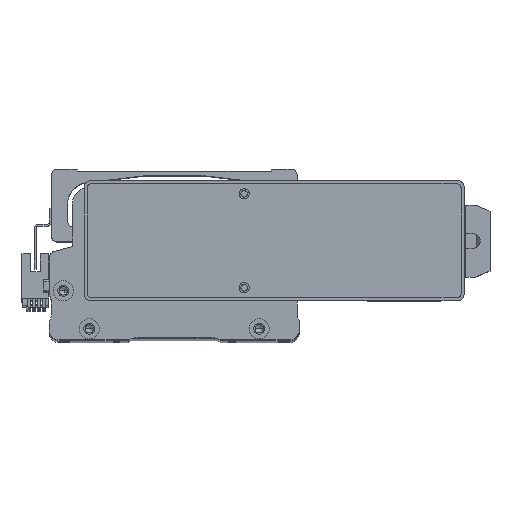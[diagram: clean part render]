
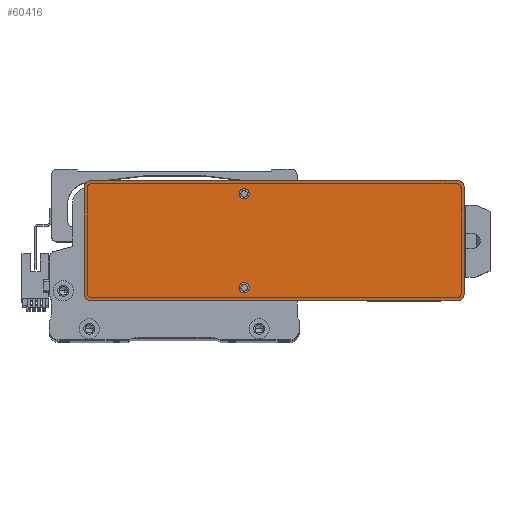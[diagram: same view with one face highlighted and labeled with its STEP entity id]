
A CAD part, top view. The second image highlights one B-rep face of the part: STEP entity #60416.
In plain terms, the highlighted planar face has unit normal (0, 0, 1) as drawn and (0, 0, -1) by its records, which use the part's own axes.
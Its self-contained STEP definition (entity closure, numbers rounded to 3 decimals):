
#3000 = CIRCLE ( 'NONE', #4780, 3. ) ;
#4780 = AXIS2_PLACEMENT_3D ( 'NONE', #63922, #27405, #70014 ) ;
#5582 = ORIENTED_EDGE ( 'NONE', *, *, #56372, .F. ) ;
#6471 = CARTESIAN_POINT ( 'NONE',  ( -15., 23.5, 0. ) ) ;
#6657 = CARTESIAN_POINT ( 'NONE',  ( -95., -30., 0. ) ) ;
#8413 = VERTEX_POINT ( 'NONE', #34361 ) ;
#8423 = CARTESIAN_POINT ( 'NONE',  ( 92., -30., 0. ) ) ;
#8548 = EDGE_CURVE ( 'NONE', #8413, #21609, #36476, .T. ) ;
#8846 = VERTEX_POINT ( 'NONE', #8423 ) ;
#9430 = CARTESIAN_POINT ( 'NONE',  ( -15., -23.5, 0. ) ) ;
#9448 = VERTEX_POINT ( 'NONE', #27777 ) ;
#11231 = CIRCLE ( 'NONE', #35936, 2.5 ) ;
#12263 = AXIS2_PLACEMENT_3D ( 'NONE', #57153, #38785, #20690 ) ;
#12648 = DIRECTION ( 'NONE',  ( -1., 0., 0. ) ) ;
#12650 = VERTEX_POINT ( 'NONE', #15825 ) ;
#12828 = DIRECTION ( 'NONE',  ( 0., -1., 0. ) ) ;
#14283 = CARTESIAN_POINT ( 'NONE',  ( -92., 27., 0. ) ) ;
#14720 = ORIENTED_EDGE ( 'NONE', *, *, #56242, .F. ) ;
#15553 = DIRECTION ( 'NONE',  ( -1., 0., 0. ) ) ;
#15825 = CARTESIAN_POINT ( 'NONE',  ( -92., -30., 0. ) ) ;
#15839 = AXIS2_PLACEMENT_3D ( 'NONE', #63216, #26713, #69315 ) ;
#17360 = VECTOR ( 'NONE', #46715, 1000. ) ;
#18761 = VECTOR ( 'NONE', #12828, 1000. ) ;
#19611 = AXIS2_PLACEMENT_3D ( 'NONE', #29966, #72605, #36090 ) ;
#20408 = DIRECTION ( 'NONE',  ( 1., 0., 0. ) ) ;
#20690 = DIRECTION ( 'NONE',  ( 1., 0., 0. ) ) ;
#20745 = VERTEX_POINT ( 'NONE', #23341 ) ;
#21609 = VERTEX_POINT ( 'NONE', #51323 ) ;
#22374 = ORIENTED_EDGE ( 'NONE', *, *, #48175, .F. ) ;
#23341 = CARTESIAN_POINT ( 'NONE',  ( 92., 30., 0. ) ) ;
#23448 = CARTESIAN_POINT ( 'NONE',  ( -15., 23.5, 0. ) ) ;
#26221 = DIRECTION ( 'NONE',  ( 0., 1., 0. ) ) ;
#26713 = DIRECTION ( 'NONE',  ( 0., 0., -1. ) ) ;
#26900 = AXIS2_PLACEMENT_3D ( 'NONE', #9430, #51986, #15553 ) ;
#27405 = DIRECTION ( 'NONE',  ( 0., 0., -1. ) ) ;
#27651 = VERTEX_POINT ( 'NONE', #53078 ) ;
#27777 = CARTESIAN_POINT ( 'NONE',  ( -17.5, -23.5, 0. ) ) ;
#27839 = FACE_BOUND ( 'NONE', #56259, .T. ) ;
#29146 = VERTEX_POINT ( 'NONE', #76918 ) ;
#29565 = DIRECTION ( 'NONE',  ( -1., 0., 0. ) ) ;
#29966 = CARTESIAN_POINT ( 'NONE',  ( -15., -23.5, 0. ) ) ;
#31221 = CIRCLE ( 'NONE', #19611, 2.5 ) ;
#31501 = DIRECTION ( 'NONE',  ( 0., 0., -1. ) ) ;
#31587 = VECTOR ( 'NONE', #26221, 1000. ) ;
#33426 = ORIENTED_EDGE ( 'NONE', *, *, #8548, .F. ) ;
#34361 = CARTESIAN_POINT ( 'NONE',  ( -12.5, 23.5, 0. ) ) ;
#34831 = CARTESIAN_POINT ( 'NONE',  ( -95., -27., 0. ) ) ;
#34990 = VERTEX_POINT ( 'NONE', #35088 ) ;
#35088 = CARTESIAN_POINT ( 'NONE',  ( -95., 27., 0. ) ) ;
#35289 = EDGE_LOOP ( 'NONE', ( #5582, #33426 ) ) ;
#35391 = EDGE_CURVE ( 'NONE', #20745, #27651, #65992, .T. ) ;
#35936 = AXIS2_PLACEMENT_3D ( 'NONE', #6471, #49071, #12648 ) ;
#36090 = DIRECTION ( 'NONE',  ( -1., 0., 0. ) ) ;
#36476 = CIRCLE ( 'NONE', #73687, 2.5 ) ;
#36496 = VERTEX_POINT ( 'NONE', #34831 ) ;
#37159 = CIRCLE ( 'NONE', #40494, 3. ) ;
#38211 = EDGE_CURVE ( 'NONE', #20745, #29146, #37159, .T. ) ;
#38785 = DIRECTION ( 'NONE',  ( 0., 0., 1. ) ) ;
#39575 = CIRCLE ( 'NONE', #26900, 2.5 ) ;
#40220 = FACE_OUTER_BOUND ( 'NONE', #64776, .T. ) ;
#40494 = AXIS2_PLACEMENT_3D ( 'NONE', #67999, #31501, #74166 ) ;
#41814 = ORIENTED_EDGE ( 'NONE', *, *, #60987, .T. ) ;
#43853 = VERTEX_POINT ( 'NONE', #48089 ) ;
#44465 = ORIENTED_EDGE ( 'NONE', *, *, #35391, .F. ) ;
#45361 = EDGE_CURVE ( 'NONE', #12650, #36496, #3000, .T. ) ;
#45815 = LINE ( 'NONE', #62720, #31587 ) ;
#45840 = EDGE_CURVE ( 'NONE', #34990, #27651, #74676, .T. ) ;
#46715 = DIRECTION ( 'NONE',  ( -1., 0., 0. ) ) ;
#48089 = CARTESIAN_POINT ( 'NONE',  ( -12.5, -23.5, 0. ) ) ;
#48150 = CARTESIAN_POINT ( 'NONE',  ( 95., -30., 0. ) ) ;
#48175 = EDGE_CURVE ( 'NONE', #34990, #36496, #52998, .T. ) ;
#49071 = DIRECTION ( 'NONE',  ( 0., 0., -1. ) ) ;
#50704 = AXIS2_PLACEMENT_3D ( 'NONE', #14283, #56859, #20408 ) ;
#50983 = PLANE ( 'NONE',  #12263 ) ;
#51323 = CARTESIAN_POINT ( 'NONE',  ( -17.5, 23.5, 0. ) ) ;
#51986 = DIRECTION ( 'NONE',  ( 0., 0., -1. ) ) ;
#52519 = EDGE_CURVE ( 'NONE', #43853, #9448, #39575, .T. ) ;
#52805 = CARTESIAN_POINT ( 'NONE',  ( 95., 30., 0. ) ) ;
#52998 = LINE ( 'NONE', #6657, #18761 ) ;
#53078 = CARTESIAN_POINT ( 'NONE',  ( -92., 30., 0. ) ) ;
#54011 = EDGE_CURVE ( 'NONE', #62772, #29146, #45815, .T. ) ;
#54277 = DIRECTION ( 'NONE',  ( 1., 0., 0. ) ) ;
#56242 = EDGE_CURVE ( 'NONE', #9448, #43853, #31221, .T. ) ;
#56259 = EDGE_LOOP ( 'NONE', ( #14720, #78608 ) ) ;
#56372 = EDGE_CURVE ( 'NONE', #21609, #8413, #11231, .T. ) ;
#56393 = FACE_BOUND ( 'NONE', #35289, .T. ) ;
#56455 = CARTESIAN_POINT ( 'NONE',  ( 95., -27., 0. ) ) ;
#56859 = DIRECTION ( 'NONE',  ( 0., 0., -1. ) ) ;
#57153 = CARTESIAN_POINT ( 'NONE',  ( 0., 0., 0. ) ) ;
#58653 = EDGE_CURVE ( 'NONE', #12650, #8846, #69719, .T. ) ;
#60416 = ADVANCED_FACE ( 'NONE', ( #56393, #40220, #27839 ), #50983, .F. ) ;
#60987 = EDGE_CURVE ( 'NONE', #62772, #8846, #78275, .T. ) ;
#62335 = ORIENTED_EDGE ( 'NONE', *, *, #45840, .T. ) ;
#62720 = CARTESIAN_POINT ( 'NONE',  ( 95., -30., 0. ) ) ;
#62772 = VERTEX_POINT ( 'NONE', #56455 ) ;
#63216 = CARTESIAN_POINT ( 'NONE',  ( 92., -27., 0. ) ) ;
#63263 = ORIENTED_EDGE ( 'NONE', *, *, #45361, .T. ) ;
#63922 = CARTESIAN_POINT ( 'NONE',  ( -92., -27., 0. ) ) ;
#64036 = ORIENTED_EDGE ( 'NONE', *, *, #54011, .F. ) ;
#64776 = EDGE_LOOP ( 'NONE', ( #64036, #41814, #75881, #63263, #22374, #62335, #44465, #67758 ) ) ;
#65992 = LINE ( 'NONE', #52805, #17360 ) ;
#66067 = DIRECTION ( 'NONE',  ( 0., 0., -1. ) ) ;
#67758 = ORIENTED_EDGE ( 'NONE', *, *, #38211, .T. ) ;
#67841 = VECTOR ( 'NONE', #54277, 1000. ) ;
#67999 = CARTESIAN_POINT ( 'NONE',  ( 92., 27., 0. ) ) ;
#69315 = DIRECTION ( 'NONE',  ( 1., 0., 0. ) ) ;
#69719 = LINE ( 'NONE', #48150, #67841 ) ;
#70014 = DIRECTION ( 'NONE',  ( 1., 0., 0. ) ) ;
#72605 = DIRECTION ( 'NONE',  ( 0., 0., -1. ) ) ;
#73687 = AXIS2_PLACEMENT_3D ( 'NONE', #23448, #66067, #29565 ) ;
#74166 = DIRECTION ( 'NONE',  ( 1., 0., 0. ) ) ;
#74676 = CIRCLE ( 'NONE', #50704, 3. ) ;
#75881 = ORIENTED_EDGE ( 'NONE', *, *, #58653, .F. ) ;
#76918 = CARTESIAN_POINT ( 'NONE',  ( 95., 27., 0. ) ) ;
#78275 = CIRCLE ( 'NONE', #15839, 3. ) ;
#78608 = ORIENTED_EDGE ( 'NONE', *, *, #52519, .F. ) ;
